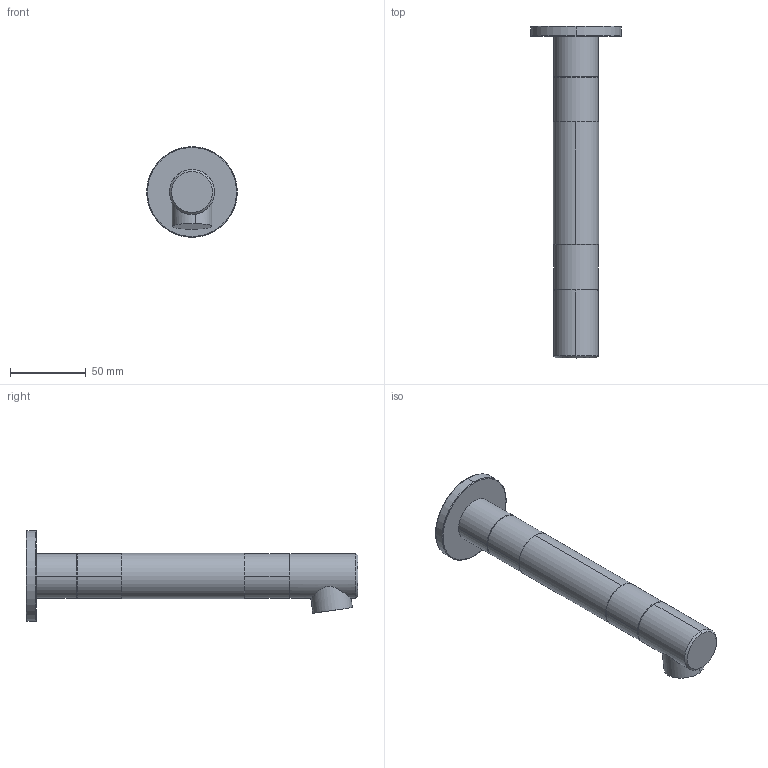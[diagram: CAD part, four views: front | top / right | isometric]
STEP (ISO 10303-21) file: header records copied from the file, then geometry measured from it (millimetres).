
FILE_DESCRIPTION((''),'2;1');
FILE_NAME('BATH_SPOUT-ROUND_ASM_SW0001','2023-10-16T10:07:31',('YY993'),(''),'CREO PARAMETRIC BY PTC INC, 2022244','CREO PARAMETRIC BY PTC INC, 2022244','');
FILE_SCHEMA(('CONFIG_CONTROL_DESIGN'));
Length unit declared in the file: millimetre
Products named in the file (1): BATH_SPOUT-ROUND_ASM_SW0001
Bounding box: 60 x 219.8 x 60 mm (x, y, z)
Volume: 173665.3 mm3; surface area: 28123.6 mm2
Topology: 1 solids, 1 shells, 46 faces, 97 edges, 60 vertices
Faces by surface type: cylinder 21, plane 13, cone 8, torus 4
Entity records: 1611 total; most frequent: CARTESIAN_POINT 565, DIRECTION 227, ORIENTED_EDGE 194, AXIS2_PLACEMENT_3D 100, EDGE_CURVE 97, VERTEX_POINT 60, CIRCLE 54, EDGE_LOOP 53
